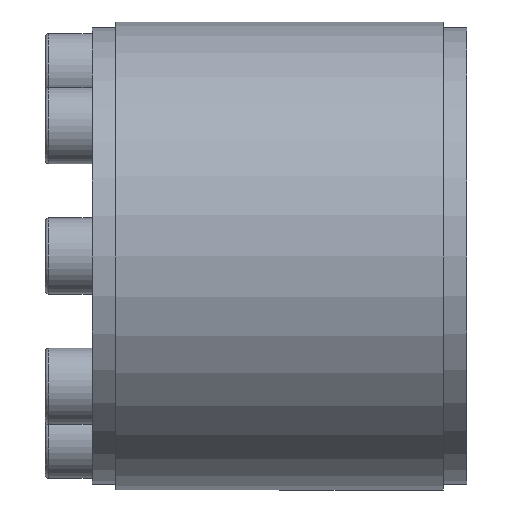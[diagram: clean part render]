
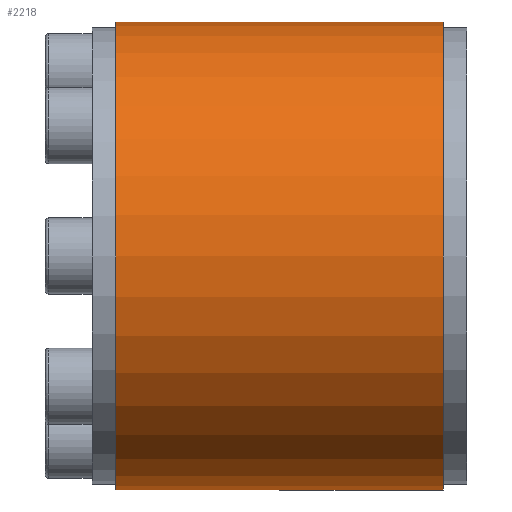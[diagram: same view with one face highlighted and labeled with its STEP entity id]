
A CAD part, left-side view. The second image highlights one B-rep face of the part: STEP entity #2218.
In plain terms, the highlighted cylindrical face has radius 40 mm (diameter 80 mm), a partial arc.
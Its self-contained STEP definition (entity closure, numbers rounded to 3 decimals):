
#162 = AXIS2_PLACEMENT_3D ( 'NONE', #3013, #2089, #1346 ) ;
#382 = CARTESIAN_POINT ( 'NONE',  ( 0., 28., -40. ) ) ;
#405 = CARTESIAN_POINT ( 'NONE',  ( 0., 0., 0. ) ) ;
#473 = DIRECTION ( 'NONE',  ( 0., 0., -1. ) ) ;
#651 = FACE_OUTER_BOUND ( 'NONE', #981, .T. ) ;
#742 = CARTESIAN_POINT ( 'NONE',  ( 0., 0., -40. ) ) ;
#819 = LINE ( 'NONE', #1071, #1170 ) ;
#861 = VERTEX_POINT ( 'NONE', #382 ) ;
#882 = DIRECTION ( 'NONE',  ( 0., -1., 0. ) ) ;
#981 = EDGE_LOOP ( 'NONE', ( #2270, #2864, #2537, #3091 ) ) ;
#1017 = DIRECTION ( 'NONE',  ( 0., -1., 0. ) ) ;
#1071 = CARTESIAN_POINT ( 'NONE',  ( 0., 0., 40. ) ) ;
#1163 = VECTOR ( 'NONE', #2147, 1000. ) ;
#1170 = VECTOR ( 'NONE', #2035, 1000. ) ;
#1346 = DIRECTION ( 'NONE',  ( 0., 0., -1. ) ) ;
#1359 = CARTESIAN_POINT ( 'NONE',  ( 0., 28., 40. ) ) ;
#1539 = EDGE_CURVE ( 'NONE', #861, #2050, #2440, .T. ) ;
#1608 = VERTEX_POINT ( 'NONE', #2450 ) ;
#1723 = EDGE_CURVE ( 'NONE', #2936, #1608, #819, .T. ) ;
#1867 = EDGE_CURVE ( 'NONE', #2936, #861, #3035, .T. ) ;
#1936 = CARTESIAN_POINT ( 'NONE',  ( 0., -28., -40. ) ) ;
#1968 = EDGE_CURVE ( 'NONE', #1608, #2050, #2514, .T. ) ;
#2035 = DIRECTION ( 'NONE',  ( 0., -1., 0. ) ) ;
#2050 = VERTEX_POINT ( 'NONE', #1936 ) ;
#2089 = DIRECTION ( 'NONE',  ( 0., -1., 0. ) ) ;
#2114 = AXIS2_PLACEMENT_3D ( 'NONE', #2615, #1017, #473 ) ;
#2147 = DIRECTION ( 'NONE',  ( 0., -1., 0. ) ) ;
#2218 = ADVANCED_FACE ( 'NONE', ( #651 ), #2840, .T. ) ;
#2270 = ORIENTED_EDGE ( 'NONE', *, *, #1723, .F. ) ;
#2353 = AXIS2_PLACEMENT_3D ( 'NONE', #405, #882, #2816 ) ;
#2440 = LINE ( 'NONE', #742, #1163 ) ;
#2450 = CARTESIAN_POINT ( 'NONE',  ( 0., -28., 40. ) ) ;
#2514 = CIRCLE ( 'NONE', #2114, 40. ) ;
#2537 = ORIENTED_EDGE ( 'NONE', *, *, #1539, .T. ) ;
#2615 = CARTESIAN_POINT ( 'NONE',  ( 0., -28., 0. ) ) ;
#2816 = DIRECTION ( 'NONE',  ( 0., 0., -1. ) ) ;
#2840 = CYLINDRICAL_SURFACE ( 'NONE', #2353, 40. ) ;
#2864 = ORIENTED_EDGE ( 'NONE', *, *, #1867, .T. ) ;
#2936 = VERTEX_POINT ( 'NONE', #1359 ) ;
#3013 = CARTESIAN_POINT ( 'NONE',  ( 0., 28., 0. ) ) ;
#3035 = CIRCLE ( 'NONE', #162, 40. ) ;
#3091 = ORIENTED_EDGE ( 'NONE', *, *, #1968, .F. ) ;
